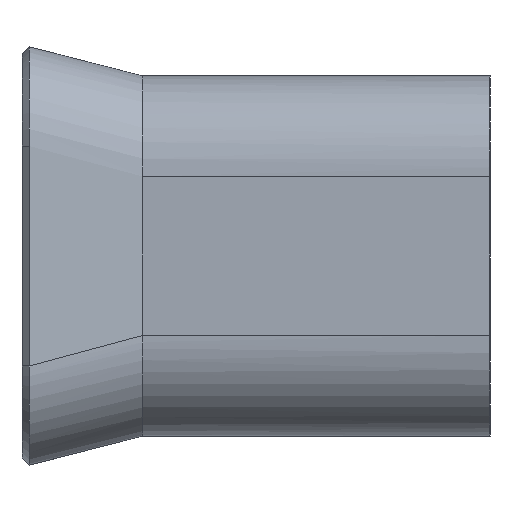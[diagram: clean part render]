
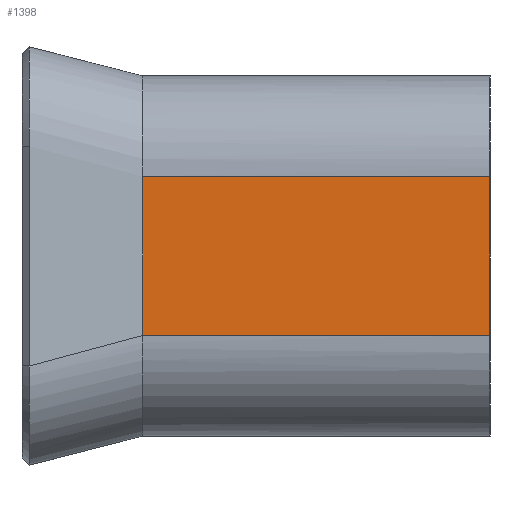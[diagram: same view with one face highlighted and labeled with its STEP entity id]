
A CAD part, left-side view. The second image highlights one B-rep face of the part: STEP entity #1398.
In plain terms, the highlighted planar face has unit normal (-1, 0, 0).
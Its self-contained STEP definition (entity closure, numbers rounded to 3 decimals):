
#109 = VECTOR ( 'NONE', #911, 1000. ) ;
#115 = CARTESIAN_POINT ( 'NONE',  ( -24.08, 8.789, -22.359 ) ) ;
#169 = CARTESIAN_POINT ( 'NONE',  ( -24.08, 8.789, -26.842 ) ) ;
#177 = CARTESIAN_POINT ( 'NONE',  ( -24.08, -1., -26.842 ) ) ;
#249 = VERTEX_POINT ( 'NONE', #169 ) ;
#264 = CARTESIAN_POINT ( 'NONE',  ( -24.08, -1., -22.359 ) ) ;
#335 = AXIS2_PLACEMENT_3D ( 'NONE', #1477, #1301, #780 ) ;
#393 = CARTESIAN_POINT ( 'NONE',  ( -24.079, 8.789, -22.359 ) ) ;
#406 = LINE ( 'NONE', #2273, #109 ) ;
#428 = LINE ( 'NONE', #115, #966 ) ;
#608 = CARTESIAN_POINT ( 'NONE',  ( -24.079, 8.789, -22.359 ) ) ;
#667 = ORIENTED_EDGE ( 'NONE', *, *, #1926, .F. ) ;
#764 = CARTESIAN_POINT ( 'NONE',  ( -24.08, 8.789, -24.6 ) ) ;
#773 = VERTEX_POINT ( 'NONE', #912 ) ;
#780 = DIRECTION ( 'NONE',  ( 0., 0., -1. ) ) ;
#791 = EDGE_CURVE ( 'NONE', #1264, #773, #1856, .T. ) ;
#911 = DIRECTION ( 'NONE',  ( 0., -1., 0. ) ) ;
#912 = CARTESIAN_POINT ( 'NONE',  ( -24.08, -1., -26.842 ) ) ;
#934 = ORIENTED_EDGE ( 'NONE', *, *, #791, .F. ) ;
#956 = CARTESIAN_POINT ( 'NONE',  ( -24.08, 8.789, -23.524 ) ) ;
#966 = VECTOR ( 'NONE', #2305, 1000. ) ;
#970 = CARTESIAN_POINT ( 'NONE',  ( -24.08, 8.789, -25.677 ) ) ;
#1120 = DIRECTION ( 'NONE',  ( 0., 0., -1. ) ) ;
#1132 = FACE_OUTER_BOUND ( 'NONE', #1957, .T. ) ;
#1156 = CARTESIAN_POINT ( 'NONE',  ( -24.08, 8.789, -26.842 ) ) ;
#1167 = CARTESIAN_POINT ( 'NONE',  ( -24.08, 8.789, -26.434 ) ) ;
#1264 = VERTEX_POINT ( 'NONE', #264 ) ;
#1301 = DIRECTION ( 'NONE',  ( 1., 0., 0. ) ) ;
#1398 = ADVANCED_FACE ( 'NONE', ( #1132 ), #2091, .F. ) ;
#1425 = VERTEX_POINT ( 'NONE', #393 ) ;
#1473 = EDGE_CURVE ( 'NONE', #249, #773, #406, .T. ) ;
#1477 = CARTESIAN_POINT ( 'NONE',  ( -24.08, 8.789, -26.842 ) ) ;
#1519 = VECTOR ( 'NONE', #1120, 1000. ) ;
#1546 = CARTESIAN_POINT ( 'NONE',  ( -24.08, 8.789, -22.766 ) ) ;
#1730 = ORIENTED_EDGE ( 'NONE', *, *, #1473, .T. ) ;
#1754 = B_SPLINE_CURVE_WITH_KNOTS ( 'NONE', 3,
 ( #1156, #1167, #970, #764, #956, #1546, #608 ),
 .UNSPECIFIED., .F., .F.,
 ( 4, 1, 1, 1, 4 ),
 ( 0., 0.25, 0.5, 0.75, 1. ),
 .UNSPECIFIED. ) ;
#1841 = ORIENTED_EDGE ( 'NONE', *, *, #2056, .F. ) ;
#1856 = LINE ( 'NONE', #177, #1519 ) ;
#1926 = EDGE_CURVE ( 'NONE', #249, #1425, #1754, .T. ) ;
#1957 = EDGE_LOOP ( 'NONE', ( #1730, #934, #1841, #667 ) ) ;
#2056 = EDGE_CURVE ( 'NONE', #1425, #1264, #428, .T. ) ;
#2091 = PLANE ( 'NONE',  #335 ) ;
#2273 = CARTESIAN_POINT ( 'NONE',  ( -24.08, 8.789, -26.842 ) ) ;
#2305 = DIRECTION ( 'NONE',  ( 0., -1., 0. ) ) ;
